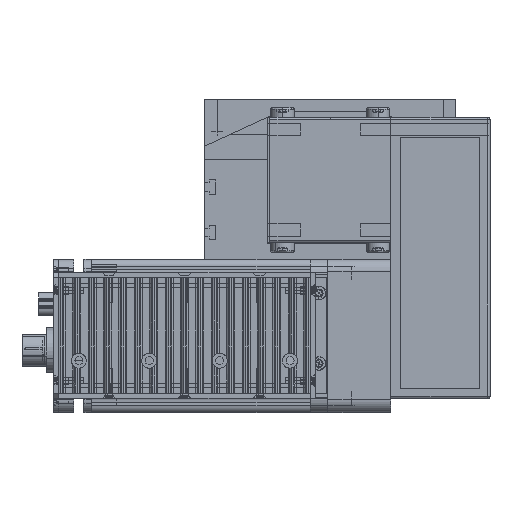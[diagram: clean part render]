
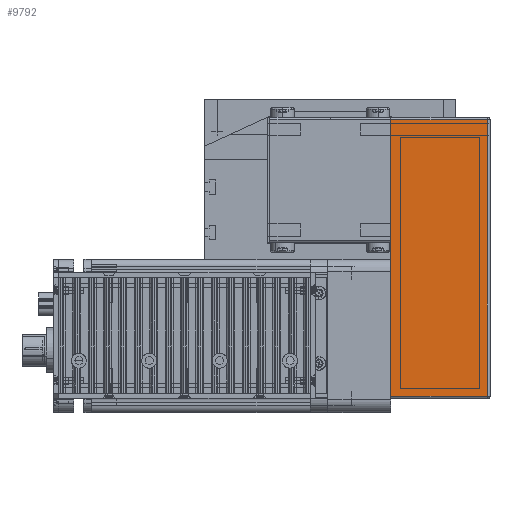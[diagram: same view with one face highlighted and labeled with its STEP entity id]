
A CAD part, top view. The second image highlights one B-rep face of the part: STEP entity #9792.
In plain terms, the highlighted planar face has unit normal (0, 0, 1) as drawn and (0, -1, 0) by its records, which use the part's own axes.
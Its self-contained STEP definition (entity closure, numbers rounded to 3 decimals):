
#4169 = ORIENTED_EDGE ( 'NONE', *, *, #9687, .F. ) ;
#9528 = EDGE_CURVE ( 'NONE', #9651, #9661, #42494, .T. ) ;
#9554 = EDGE_CURVE ( 'NONE', #9586, #9587, #42516, .T. ) ;
#9570 = ORIENTED_EDGE ( 'NONE', *, *, #9528, .F. ) ;
#9586 = VERTEX_POINT ( 'NONE', #42559 ) ;
#9587 = VERTEX_POINT ( 'NONE', #42549 ) ;
#9651 = VERTEX_POINT ( 'NONE', #42611 ) ;
#9661 = VERTEX_POINT ( 'NONE', #42669 ) ;
#9679 = EDGE_LOOP ( 'NONE', ( #9684, #9685, #9570, #4169 ) ) ;
#9684 = ORIENTED_EDGE ( 'NONE', *, *, #9554, .F. ) ;
#9685 = ORIENTED_EDGE ( 'NONE', *, *, #9793, .T. ) ;
#9687 = EDGE_CURVE ( 'NONE', #9587, #9651, #42702, .T. ) ;
#9792 = ADVANCED_FACE ( 'NONE', ( #42816 ), #42815, .F. ) ;
#9793 = EDGE_CURVE ( 'NONE', #9586, #9661, #42841, .T. ) ;
#42480 = DIRECTION ( 'NONE',  ( 0., 0., -1. ) ) ;
#42481 = VECTOR ( 'NONE', #42480, 1000. ) ;
#42494 = LINE ( 'NONE', #42503, #42481 ) ;
#42503 = CARTESIAN_POINT ( 'NONE',  ( 61., -25., 39.5 ) ) ;
#42512 = DIRECTION ( 'NONE',  ( 0., 0., 1. ) ) ;
#42514 = VECTOR ( 'NONE', #42512, 1000. ) ;
#42515 = CARTESIAN_POINT ( 'NONE',  ( -49., -25., 39.5 ) ) ;
#42516 = LINE ( 'NONE', #42515, #42514 ) ;
#42549 = CARTESIAN_POINT ( 'NONE',  ( -49., -25., 38.5 ) ) ;
#42559 = CARTESIAN_POINT ( 'NONE',  ( -49., -25., 0. ) ) ;
#42611 = CARTESIAN_POINT ( 'NONE',  ( 61., -25., 38.5 ) ) ;
#42642 = VECTOR ( 'NONE', #42700, 1000. ) ;
#42643 = CARTESIAN_POINT ( 'NONE',  ( -50., -25., 38.5 ) ) ;
#42669 = CARTESIAN_POINT ( 'NONE',  ( 61., -25., 0. ) ) ;
#42700 = DIRECTION ( 'NONE',  ( 1., 0., 0. ) ) ;
#42702 = LINE ( 'NONE', #42643, #42642 ) ;
#42774 = AXIS2_PLACEMENT_3D ( 'NONE', #42792, #42791, #42878 ) ;
#42791 = DIRECTION ( 'NONE',  ( 0., 1., 0. ) ) ;
#42792 = CARTESIAN_POINT ( 'NONE',  ( -50., -25., 39.5 ) ) ;
#42815 = PLANE ( 'NONE',  #42774 ) ;
#42816 = FACE_OUTER_BOUND ( 'NONE', #9679, .T. ) ;
#42841 = LINE ( 'NONE', #42877, #42876 ) ;
#42875 = DIRECTION ( 'NONE',  ( 1., 0., 0. ) ) ;
#42876 = VECTOR ( 'NONE', #42875, 1000. ) ;
#42877 = CARTESIAN_POINT ( 'NONE',  ( -50., -25., 0. ) ) ;
#42878 = DIRECTION ( 'NONE',  ( 0., 0., 1. ) ) ;
